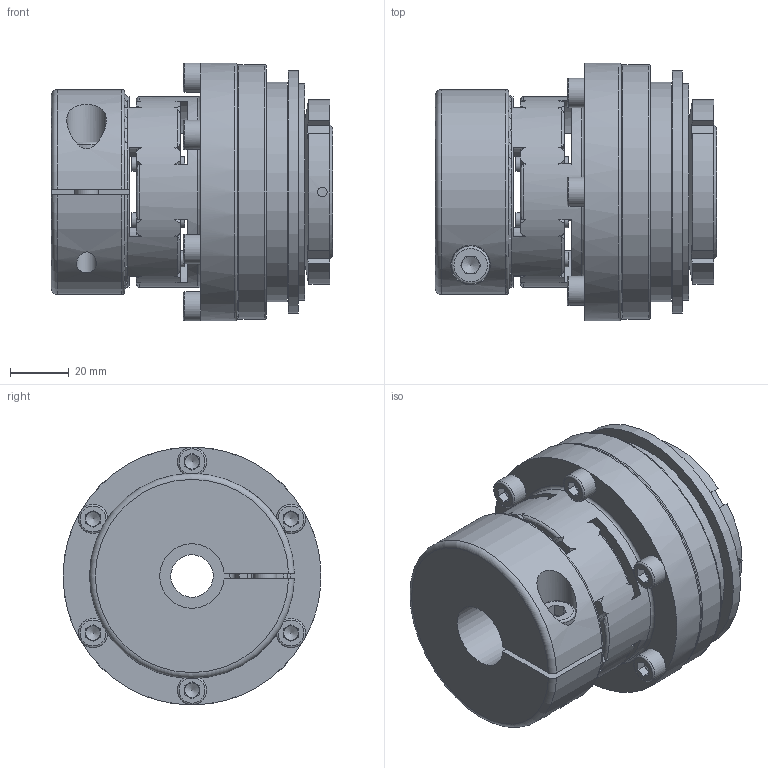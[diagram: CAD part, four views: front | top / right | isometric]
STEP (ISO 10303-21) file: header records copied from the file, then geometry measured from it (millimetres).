
FILE_DESCRIPTION( ( 'Unknown' ), '1' );
FILE_NAME( 'F:/JAKOB-STEP+IGES-Dateien/STEP-Dateien/SKW-EK/SKW-EK 150.stp', 'Unknown', ( 'Unknown' ), ( 'Unknown' ), 'PSStep 10.1', 'Unknown', ' ' );
FILE_SCHEMA( ( 'AUTOMOTIVE_DESIGN { 1 0 10303 214 1 1 1 1 }' ) );
Length unit declared in the file: millimetre
Products named in the file (1): SKW 150
Bounding box: 96 x 88 x 88 mm (x, y, z)
Volume: 342260.4 mm3; surface area: 84806 mm2
Topology: 1 solids, 11 shells, 474 faces, 1332 edges, 855 vertices
Faces by surface type: plane 199, cylinder 123, torus 74, cone 63, sphere 15
Full cylindrical faces by diameter (mm): 2 x2, 3.3 x3, 5 x14, 6 x6, 6.4 x6, 6.8 x1, 8 x1, 8.6 x1, 10 x6, 13 x1, 13.5 x1, 14.5 x1, 16 x1, 30 x2, 40.5 x1, 42.5 x1, 44.8 x1, 45 x2, 46 x1, 46.5 x1, 52.3 x2, 60.8 x2, 65 x1, 68 x3, 72.6 x2, 74 x1, 75 x1, 83 x1, 87 x1, 88 x1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
Entity records: 19964 total; most frequent: CARTESIAN_POINT 4973, DIRECTION 2312, ORIENTED_EDGE 2228, EDGE_CURVE 1114, AXIS2_PLACEMENT_3D 987, VERTEX_POINT 770, EDGE_LOOP 665, FACE_OUTER_BOUND 552
